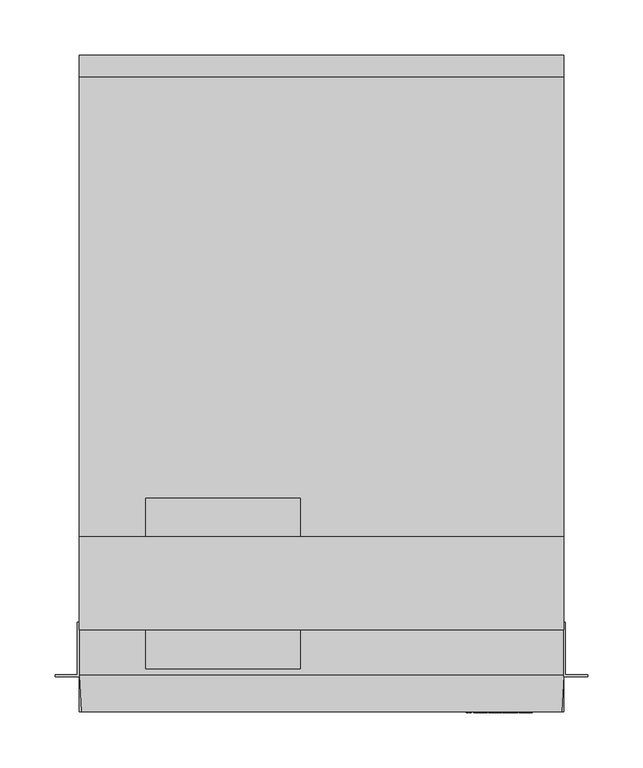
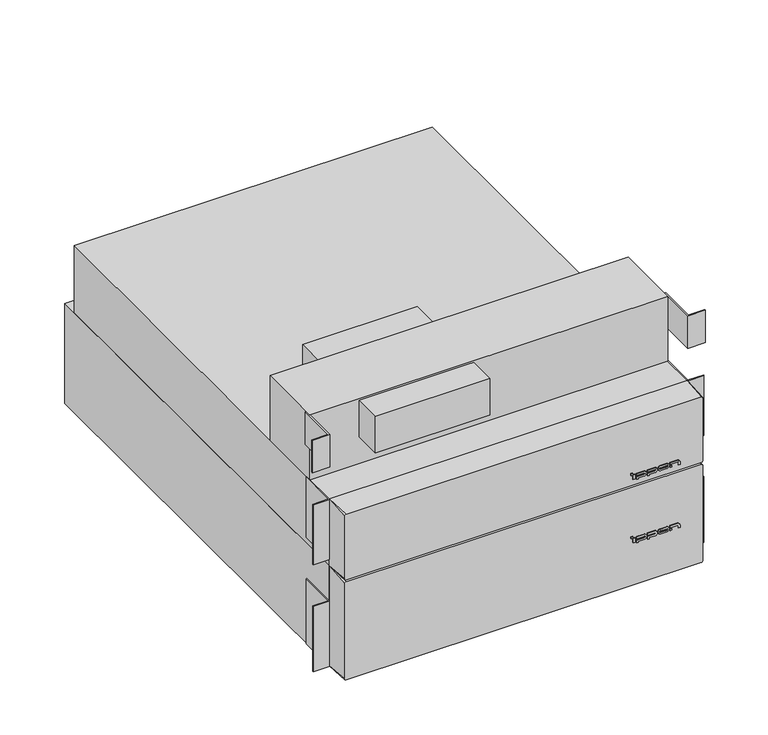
"""IFC4 building model written with IfcOpenShell, lengths in millimetres: proxy geometry, IPPON_ИБП_Innova RT II_60000_10000ВА_Горизонтальный : Innova RT II 10000 ВА."""

from ifc_helpers import new_model, si_unit, point, frame, frame_2d, origin, place, context, project, spatial, polyline, circle_curve, trimmed, segment, composite_curve, outline, extrude, source, transform, mapped, element, save
from ifc_brep_helpers import plane_surface, spline_surface, advanced_brep


def electrical_equipment_400f7965(model_context):
    return source(origin(), model_context, "Body", "SolidModel", [
        extrude(outline(polyline([(-219.0, 157.7370871), (219.0, 157.7370871), (219.0, 73.7370871), (-219.0, 73.7370871), (-219.0, 157.7370871)])), frame((0.0, 0.0, 88.0), z_axis=(0.0, 0.0, 1.0), x_axis=(1.0, 0.0, 0.0)), (0.0, 0.0, 1.0), 84.0),
        extrude(outline(polyline([(-219.0, 31.5), (-240.5, 31.5), (-240.5, 33.0), (-220.5, 33.0), (-220.5, 80.7370871), (-219.0, 80.7370871), (-219.0, 31.5)])), frame((0.0, 0.0, 130.0), z_axis=(0.0, 0.0, 1.0), x_axis=(1.0, 0.0, 0.0)), (0.0, 0.0, 1.0), 42.0),
        extrude(outline(polyline([(219.0, 31.5), (219.0, 80.7370871), (220.5, 80.7370871), (220.5, 33.0), (240.5, 33.0), (240.5, 31.5), (219.0, 31.5)])), frame((0.0, 0.0, 130.0), z_axis=(0.0, 0.0, 1.0), x_axis=(1.0, 0.0, 0.0)), (0.0, 0.0, 1.0), 42.0),
        extrude(outline(polyline([(-159.0, 192.7370871), (-19.0, 192.7370871), (-19.0, 38.7370871), (-159.0, 38.7370871), (-159.0, 192.7370871)])), frame((0.0, 0.0, 123.0), z_axis=(0.0, 0.0, 1.0), x_axis=(1.0, 0.0, 0.0)), (0.0, 0.0, 1.0), 47.0),
        extrude(outline(polyline([(132.8281867, -1.0), (130.8281867, -1.0), (130.8281867, 0.0), (132.8281867, 0.0), (132.8281867, -1.0)])), frame((0.0, 0.0, -65.8), z_axis=(0.0, 0.0, 1.0), x_axis=(1.0, 0.0, 0.0)), (0.0, 0.0, 1.0), 2.3),
        extrude(outline(polyline([(180.6035474, -1.0), (178.6035474, -1.0), (178.6035474, 0.0), (180.6035474, 0.0), (180.6035474, -1.0)])), frame((0.0, 0.0, -71.8), z_axis=(0.0, 0.0, 1.0), x_axis=(1.0, 0.0, 0.0)), (0.0, 0.0, 1.0), 2.2268231),
        extrude(outline(polyline([(135.561435, -1.0), (133.5166676, -1.0), (133.5166676, 0.0), (135.561435, 0.0), (135.561435, -1.0)])), frame((0.0, 0.0, -71.8), z_axis=(0.0, 0.0, 1.0), x_axis=(1.0, 0.0, 0.0)), (0.0, 0.0, 1.0), 6.0),
        extrude(outline(composite_curve([segment(polyline([(-68.06244, 137.7758891), (-68.06244, 147.0076464)]), True, "CONTINUOUS"), segment(trimmed(circle_curve(frame_2d((-68.9189193, 147.0076464)), 0.8564793), [point((-68.06244, 147.0076464))], [point((-69.7753986, 147.0076464))], True, "CARTESIAN"), True, "CONTINUOUS"), segment(polyline([(-69.7753986, 147.0076464), (-69.7753986, 137.7758891), (-73.2659032, 137.7758891), (-73.2659032, 139.7758891), (-71.8, 139.7758891), (-71.8, 146.8513964)]), True, "CONTINUOUS"), segment(trimmed(circle_curve(frame_2d((-68.8, 146.8513964)), 3.0), [point((-71.8, 146.8513964))], [point((-65.8, 146.8513964))], False, "CARTESIAN"), True, "CONTINUOUS"), segment(polyline([(-65.8, 146.8513964), (-65.8, 137.7758891), (-68.06244, 137.7758891)]), True, "CONTINUOUS")], self_intersect=False)), frame((0.0, -1.0, 0.0), z_axis=(0.0, 1.0, 0.0), x_axis=(0.0, 0.0, 1.0)), (0.0, 0.0, 1.0), 1.0),
        extrude(outline(composite_curve([segment(polyline([(-68.06244, 150.9828909), (-68.06244, 160.2146482)]), True, "CONTINUOUS"), segment(trimmed(circle_curve(frame_2d((-68.9189193, 160.2146482)), 0.8564793), [point((-68.06244, 160.2146482))], [point((-69.7753986, 160.2146482))], True, "CARTESIAN"), True, "CONTINUOUS"), segment(polyline([(-69.7753986, 160.2146482), (-69.7753986, 150.9828909), (-73.2659032, 150.9828909), (-73.2659032, 152.9828909), (-71.8, 152.9828909), (-71.8, 160.0583982)]), True, "CONTINUOUS"), segment(trimmed(circle_curve(frame_2d((-68.8, 160.0583982)), 3.0), [point((-71.8, 160.0583982))], [point((-65.8, 160.0583982))], False, "CARTESIAN"), True, "CONTINUOUS"), segment(polyline([(-65.8, 160.0583982), (-65.8, 150.9828909), (-68.06244, 150.9828909)]), True, "CONTINUOUS")], self_intersect=False)), frame((0.0, -1.0, 0.0), z_axis=(0.0, 1.0, 0.0), x_axis=(0.0, 0.0, 1.0)), (0.0, 0.0, 1.0), 1.0),
        extrude(outline(composite_curve([segment(trimmed(circle_curve(frame_2d((-68.8, 174.558657)), 3.0), [point((-71.8, 174.558657))], [point((-65.8, 174.558657))], False, "CARTESIAN"), True, "CONTINUOUS"), segment(polyline([(-65.8, 174.558657), (-65.8, 166.958657)]), True, "CONTINUOUS"), segment(trimmed(circle_curve(frame_2d((-68.8, 166.958657)), 3.0), [point((-65.8, 166.958657))], [point((-71.8, 166.958657))], False, "CARTESIAN"), True, "CONTINUOUS"), segment(polyline([(-71.8, 166.958657), (-71.8, 174.558657)]), True, "CONTINUOUS")], self_intersect=False), holes=[composite_curve([segment(polyline([(-69.7753986, 174.714907), (-69.7753986, 166.802407)]), True, "CONTINUOUS"), segment(trimmed(circle_curve(frame_2d((-68.9189193, 166.802407)), 0.8564793), [point((-69.7753986, 166.802407))], [point((-68.06244, 166.802407))], True, "CARTESIAN"), True, "CONTINUOUS"), segment(polyline([(-68.06244, 166.802407), (-68.06244, 174.714907)]), True, "CONTINUOUS"), segment(trimmed(circle_curve(frame_2d((-68.9189193, 174.714907)), 0.8564793), [point((-68.06244, 174.714907))], [point((-69.7753986, 174.714907))], True, "CARTESIAN"), True, "CONTINUOUS")], self_intersect=False)]), frame((0.0, -1.0, 0.0), z_axis=(0.0, 1.0, 0.0), x_axis=(0.0, 0.0, 1.0)), (0.0, 0.0, 1.0), 1.0),
        extrude(outline(composite_curve([segment(polyline([(-68.06244, 178.6035474), (-68.06244, 187.8353046)]), True, "CONTINUOUS"), segment(trimmed(circle_curve(frame_2d((-68.9189193, 187.8353046)), 0.8564793), [point((-68.06244, 187.8353046))], [point((-68.9189193, 188.6917839))], True, "CARTESIAN"), True, "CONTINUOUS"), segment(polyline([(-68.9189193, 188.6917839), (-71.8, 188.6917839), (-71.8, 190.6317921), (-68.2695835, 190.6317921)]), True, "CONTINUOUS"), segment(trimmed(circle_curve(frame_2d((-68.8, 187.6790546)), 3.0), [point((-68.2695835, 190.6317921))], [point((-65.8, 187.6790546))], False, "CARTESIAN"), True, "CONTINUOUS"), segment(polyline([(-65.8, 187.6790546), (-65.8, 178.6035474), (-68.06244, 178.6035474)]), True, "CONTINUOUS")], self_intersect=False)), frame((0.0, -1.0, 0.0), z_axis=(0.0, 1.0, 0.0), x_axis=(0.0, 0.0, 1.0)), (0.0, 0.0, 1.0), 1.0),
        extrude(outline(polyline([(132.8281867, -1.0), (130.8281867, -1.0), (130.8281867, 0.0), (132.8281867, 0.0), (132.8281867, -1.0)])), frame((0.0, 0.0, 16.0), z_axis=(0.0, 0.0, 1.0), x_axis=(1.0, 0.0, 0.0)), (0.0, 0.0, 1.0), 2.3),
        extrude(outline(polyline([(180.6035474, -1.0), (178.6035474, -1.0), (178.6035474, 0.0), (180.6035474, 0.0), (180.6035474, -1.0)])), frame((0.0, 0.0, 10.0), z_axis=(0.0, 0.0, 1.0), x_axis=(1.0, 0.0, 0.0)), (0.0, 0.0, 1.0), 2.2268231),
        extrude(outline(polyline([(135.561435, -1.0), (133.5166676, -1.0), (133.5166676, 0.0), (135.561435, 0.0), (135.561435, -1.0)])), frame((0.0, 0.0, 10.0), z_axis=(0.0, 0.0, 1.0), x_axis=(1.0, 0.0, 0.0)), (0.0, 0.0, 1.0), 6.0),
        extrude(outline(composite_curve([segment(polyline([(13.73756, 137.7758891), (13.73756, 147.0076464)]), True, "CONTINUOUS"), segment(trimmed(circle_curve(frame_2d((12.8810807, 147.0076464)), 0.8564793), [point((13.73756, 147.0076464))], [point((12.0246014, 147.0076464))], True, "CARTESIAN"), True, "CONTINUOUS"), segment(polyline([(12.0246014, 147.0076464), (12.0246014, 137.7758891), (8.5340968, 137.7758891), (8.5340968, 139.7758891), (10.0, 139.7758891), (10.0, 146.8513964)]), True, "CONTINUOUS"), segment(trimmed(circle_curve(frame_2d((13.0, 146.8513964)), 3.0), [point((10.0, 146.8513964))], [point((16.0, 146.8513964))], False, "CARTESIAN"), True, "CONTINUOUS"), segment(polyline([(16.0, 146.8513964), (16.0, 137.7758891), (13.73756, 137.7758891)]), True, "CONTINUOUS")], self_intersect=False)), frame((0.0, -1.0, 0.0), z_axis=(0.0, 1.0, 0.0), x_axis=(0.0, 0.0, 1.0)), (0.0, 0.0, 1.0), 1.0),
        extrude(outline(composite_curve([segment(polyline([(13.73756, 150.9828909), (13.73756, 160.2146482)]), True, "CONTINUOUS"), segment(trimmed(circle_curve(frame_2d((12.8810807, 160.2146482)), 0.8564793), [point((13.73756, 160.2146482))], [point((12.0246014, 160.2146482))], True, "CARTESIAN"), True, "CONTINUOUS"), segment(polyline([(12.0246014, 160.2146482), (12.0246014, 150.9828909), (8.5340968, 150.9828909), (8.5340968, 152.9828909), (10.0, 152.9828909), (10.0, 160.0583982)]), True, "CONTINUOUS"), segment(trimmed(circle_curve(frame_2d((13.0, 160.0583982)), 3.0), [point((10.0, 160.0583982))], [point((16.0, 160.0583982))], False, "CARTESIAN"), True, "CONTINUOUS"), segment(polyline([(16.0, 160.0583982), (16.0, 150.9828909), (13.73756, 150.9828909)]), True, "CONTINUOUS")], self_intersect=False)), frame((0.0, -1.0, 0.0), z_axis=(0.0, 1.0, 0.0), x_axis=(0.0, 0.0, 1.0)), (0.0, 0.0, 1.0), 1.0),
        extrude(outline(composite_curve([segment(trimmed(circle_curve(frame_2d((13.0, 174.558657)), 3.0), [point((10.0, 174.558657))], [point((16.0, 174.558657))], False, "CARTESIAN"), True, "CONTINUOUS"), segment(polyline([(16.0, 174.558657), (16.0, 166.958657)]), True, "CONTINUOUS"), segment(trimmed(circle_curve(frame_2d((13.0, 166.958657)), 3.0), [point((16.0, 166.958657))], [point((10.0, 166.958657))], False, "CARTESIAN"), True, "CONTINUOUS"), segment(polyline([(10.0, 166.958657), (10.0, 174.558657)]), True, "CONTINUOUS")], self_intersect=False), holes=[composite_curve([segment(polyline([(12.0246014, 174.714907), (12.0246014, 166.802407)]), True, "CONTINUOUS"), segment(trimmed(circle_curve(frame_2d((12.8810807, 166.802407)), 0.8564793), [point((12.0246014, 166.802407))], [point((13.73756, 166.802407))], True, "CARTESIAN"), True, "CONTINUOUS"), segment(polyline([(13.73756, 166.802407), (13.73756, 174.714907)]), True, "CONTINUOUS"), segment(trimmed(circle_curve(frame_2d((12.8810807, 174.714907)), 0.8564793), [point((13.73756, 174.714907))], [point((12.0246014, 174.714907))], True, "CARTESIAN"), True, "CONTINUOUS")], self_intersect=False)]), frame((0.0, -1.0, 0.0), z_axis=(0.0, 1.0, 0.0), x_axis=(0.0, 0.0, 1.0)), (0.0, 0.0, 1.0), 1.0),
        extrude(outline(composite_curve([segment(polyline([(13.73756, 178.6035474), (13.73756, 187.8353046)]), True, "CONTINUOUS"), segment(trimmed(circle_curve(frame_2d((12.8810807, 187.8353046)), 0.8564793), [point((13.73756, 187.8353046))], [point((12.8810807, 188.6917839))], True, "CARTESIAN"), True, "CONTINUOUS"), segment(polyline([(12.8810807, 188.6917839), (10.0, 188.6917839), (10.0, 190.6317921), (13.5304165, 190.6317921)]), True, "CONTINUOUS"), segment(trimmed(circle_curve(frame_2d((13.0, 187.6790546)), 3.0), [point((13.5304165, 190.6317921))], [point((16.0, 187.6790546))], False, "CARTESIAN"), True, "CONTINUOUS"), segment(polyline([(16.0, 187.6790546), (16.0, 178.6035474), (13.73756, 178.6035474)]), True, "CONTINUOUS")], self_intersect=False)), frame((0.0, -1.0, 0.0), z_axis=(0.0, 1.0, 0.0), x_axis=(0.0, 0.0, 1.0)), (0.0, 0.0, 1.0), 1.0),
        extrude(outline(polyline([(-219.0, 32.0), (-239.0, 32.0), (-239.0, 33.0), (-220.0, 33.0), (-220.0, 80.0), (-219.0, 80.0), (-219.0, 32.0)])), frame((0.0, 0.0, -128.0), z_axis=(0.0, 0.0, 1.0), x_axis=(1.0, 0.0, 0.0)), (0.0, 0.0, 1.0), 84.5),
        extrude(outline(polyline([(239.0, 32.0), (219.0, 32.0), (219.0, 80.0), (220.0, 80.0), (220.0, 33.0), (239.0, 33.0), (239.0, 32.0)])), frame((0.0, 0.0, -128.0), z_axis=(0.0, 0.0, 1.0), x_axis=(1.0, 0.0, 0.0)), (0.0, 0.0, 1.0), 84.5),
        extrude(outline(polyline([(219.0, 33.0), (-219.0, 33.0), (-219.0, 593.0), (219.0, 593.0), (219.0, 33.0)])), frame((0.0, 0.0, -128.0), z_axis=(0.0, 0.0, 1.0), x_axis=(1.0, 0.0, 0.0)), (0.0, 0.0, 1.0), 129.0),
        advanced_brep(
        [(217.0, 0.0, -127.0), (219.0, 0.0, -125.0), (219.0, 0.0, -2.0), (217.0, 0.0, 0.0), (-217.0, 0.0, 0.0), (-219.0, 0.0, -2.0), (-219.0, 0.0, -125.0), (-217.0, 0.0, -127.0), (219.0, 33.0, -128.0), (-219.0, 33.0, -128.0), (-219.0, 33.0, 1.0), (219.0, 33.0, 1.0)],
        [
            (0, 1, circle_curve(frame((217.0, 0.0, -125.0), z_axis=(0.0, -1.0, 0.0), x_axis=(-1.0, 0.0, 0.0)), 2.0)),
            (1, 2),
            (2, 3, circle_curve(frame((217.0, 0.0, -2.0), z_axis=(0.0, -1.0, 0.0), x_axis=(-1.0, 0.0, 0.0)), 2.0)),
            (3, 4),
            (4, 5, circle_curve(frame((-217.0, 0.0, -2.0), z_axis=(0.0, -1.0, 0.0), x_axis=(-1.0, 0.0, 0.0)), 2.0)),
            (5, 6),
            (6, 7, circle_curve(frame((-217.0, 0.0, -125.0), z_axis=(0.0, -1.0, 0.0), x_axis=(-1.0, 0.0, 0.0)), 2.0)),
            (7, 0),
            (8, 9),
            (9, 10),
            (10, 11),
            (11, 8),
            (0, 8),
            (8, 1),
            (7, 9),
            (6, 9),
            (5, 10),
            (4, 10),
            (3, 11),
            (2, 11),
        ],
        [
            plane_surface(frame((0.0, 0.0, -63.5), z_axis=(0.0, -1.0, 0.0), x_axis=(1.0, 0.0, 0.0))),
            plane_surface(frame((0.0, 33.0, -63.5), z_axis=(0.0, 1.0, 0.0), x_axis=(1.0, 0.0, 0.0))),
            spline_surface(2, 1, [[(219.0, 33.0, -128.0), (217.0, 0.0, -127.0)], [(219.0, 33.0, -128.0), (219.0, 0.0, -127.0)], [(219.0, 33.0, -128.0), (219.0, 0.0, -125.0)]], [3, 3], [2, 2], [0.0, 1.0], [0.0, 1.0], weights=[[1.0, 1.0], [0.7071067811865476, 0.7071067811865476], [1.0, 1.0]]),
            plane_surface(frame((0.0, 33.0, -128.0), z_axis=(0.0, -0.030289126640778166, -0.9995411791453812), x_axis=(1.0, 0.0, 0.0))),
            spline_surface(2, 1, [[(-219.0, 33.0, -128.0), (-219.0, 0.0, -125.0)], [(-219.0, 33.0, -128.0), (-219.0, 0.0, -127.0)], [(-219.0, 33.0, -128.0), (-217.0, 0.0, -127.0)]], [3, 3], [2, 2], [0.0, 1.0], [0.0, 1.0], weights=[[1.0, 1.0], [0.7071067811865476, 0.7071067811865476], [1.0, 1.0]]),
            plane_surface(frame((-219.0, 33.0, -63.5), z_axis=(-1.0, 0.0, 0.0), x_axis=(0.0, 0.0, -1.0))),
            spline_surface(2, 1, [[(-219.0, 33.0, 1.0), (-217.0, 0.0, 0.0)], [(-219.0, 33.0, 1.0), (-219.0, 0.0, 0.0)], [(-219.0, 33.0, 1.0), (-219.0, 0.0, -2.0)]], [3, 3], [2, 2], [0.0, 1.0], [0.0, 1.0], weights=[[1.0, 1.0], [0.7071067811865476, 0.7071067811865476], [1.0, 1.0]]),
            plane_surface(frame((0.0, 33.0, 1.0), z_axis=(0.0, -0.03028912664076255, 0.9995411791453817), x_axis=(-1.0, 0.0, 0.0))),
            spline_surface(2, 1, [[(219.0, 33.0, 1.0), (219.0, 0.0, -2.0)], [(219.0, 33.0, 1.0), (219.0, 0.0, 0.0)], [(219.0, 33.0, 1.0), (217.0, 0.0, 0.0)]], [3, 3], [2, 2], [0.0, 1.0], [0.0, 1.0], weights=[[1.0, 1.0], [0.7071067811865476, 0.7071067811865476], [1.0, 1.0]]),
            plane_surface(frame((219.0, 33.0, -63.5), z_axis=(1.0, 0.0, 0.0), x_axis=(0.0, 0.0, 1.0))),
        ],
        [
            (0, [[1, 2, 3, 4, 5, 6, 7, 8]]),
            (1, [[9, 10, 11, 12]]),
            (2, [[-1, 13, 14]]),
            (3, [[-9, -13, -8, 15]]),
            (4, [[-7, 16, -15]]),
            (5, [[-10, -16, -6, 17]]),
            (6, [[-5, 18, -17]]),
            (7, [[-11, -18, -4, 19]]),
            (8, [[-3, 20, -19]]),
            (9, [[-12, -20, -2, -14]]),
        ],
    ),
        extrude(outline(polyline([(219.0, 32.0), (219.0, 80.0), (220.0, 80.0), (220.0, 33.0), (239.0, 33.0), (239.0, 32.0), (219.0, 32.0)])), frame((0.0, 0.0, 10.0), z_axis=(0.0, 0.0, 1.0), x_axis=(1.0, 0.0, 0.0)), (0.0, 0.0, 1.0), 78.0),
        extrude(outline(polyline([(-219.0, 32.0), (-239.0, 32.0), (-239.0, 33.0), (-220.0, 33.0), (-220.0, 80.0), (-219.0, 80.0), (-219.0, 32.0)])), frame((0.0, 0.0, 10.0), z_axis=(0.0, 0.0, 1.0), x_axis=(1.0, 0.0, 0.0)), (0.0, 0.0, 1.0), 78.0),
        advanced_brep(
        [(217.0, 0.0, 2.5), (219.0, 0.0, 4.5), (219.0, 0.0, 85.0), (217.0, 0.0, 87.0), (-217.0, 0.0, 87.0), (-219.0, 0.0, 85.0), (-219.0, 0.0, 4.5), (-217.0, 0.0, 2.5), (219.0, 33.0, 1.5), (-219.0, 33.0, 1.5), (-219.0, 33.0, 88.0), (219.0, 33.0, 88.0)],
        [
            (0, 1, circle_curve(frame((217.0, 0.0, 4.5), z_axis=(0.0, -1.0, 0.0), x_axis=(-1.0, 0.0, 0.0)), 2.0)),
            (1, 2),
            (2, 3, circle_curve(frame((217.0, 0.0, 85.0), z_axis=(0.0, -1.0, 0.0), x_axis=(-1.0, 0.0, 0.0)), 2.0)),
            (3, 4),
            (4, 5, circle_curve(frame((-217.0, 0.0, 85.0), z_axis=(0.0, -1.0, 0.0), x_axis=(-1.0, 0.0, 0.0)), 2.0)),
            (5, 6),
            (6, 7, circle_curve(frame((-217.0, 0.0, 4.5), z_axis=(0.0, -1.0, 0.0), x_axis=(-1.0, 0.0, 0.0)), 2.0)),
            (7, 0),
            (8, 9),
            (9, 10),
            (10, 11),
            (11, 8),
            (0, 8),
            (8, 1),
            (7, 9),
            (6, 9),
            (5, 10),
            (4, 10),
            (3, 11),
            (2, 11),
        ],
        [
            plane_surface(frame((0.0, 0.0, 44.75), z_axis=(0.0, -1.0, 0.0), x_axis=(1.0, 0.0, 0.0))),
            plane_surface(frame((0.0, 33.0, 44.75), z_axis=(0.0, 1.0, 0.0), x_axis=(1.0, 0.0, 0.0))),
            spline_surface(2, 1, [[(219.0, 33.0, 1.5), (217.0, 0.0, 2.5)], [(219.0, 33.0, 1.5), (219.0, 0.0, 2.5)], [(219.0, 33.0, 1.5), (219.0, 0.0, 4.5)]], [3, 3], [2, 2], [0.0, 1.0], [0.0, 1.0], weights=[[1.0, 1.0], [0.7071067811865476, 0.7071067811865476], [1.0, 1.0]]),
            plane_surface(frame((0.0, 33.0, 1.5), z_axis=(0.0, -0.030289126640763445, -0.9995411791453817), x_axis=(1.0, 0.0, 0.0))),
            spline_surface(2, 1, [[(-219.0, 33.0, 1.5), (-219.0, 0.0, 4.5)], [(-219.0, 33.0, 1.5), (-219.0, 0.0, 2.5)], [(-219.0, 33.0, 1.5), (-217.0, 0.0, 2.5)]], [3, 3], [2, 2], [0.0, 1.0], [0.0, 1.0], weights=[[1.0, 1.0], [0.7071067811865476, 0.7071067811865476], [1.0, 1.0]]),
            plane_surface(frame((-219.0, 33.0, 44.75), z_axis=(-1.0, 0.0, 0.0), x_axis=(0.0, 0.0, -1.0))),
            spline_surface(2, 1, [[(-219.0, 33.0, 88.0), (-217.0, 0.0, 87.0)], [(-219.0, 33.0, 88.0), (-219.0, 0.0, 87.0)], [(-219.0, 33.0, 88.0), (-219.0, 0.0, 85.0)]], [3, 3], [2, 2], [0.0, 1.0], [0.0, 1.0], weights=[[1.0, 1.0], [0.7071067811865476, 0.7071067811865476], [1.0, 1.0]]),
            plane_surface(frame((0.0, 33.0, 88.0), z_axis=(0.0, -0.030289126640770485, 0.9995411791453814), x_axis=(-1.0, 0.0, 0.0))),
            spline_surface(2, 1, [[(219.0, 33.0, 88.0), (219.0, 0.0, 85.0)], [(219.0, 33.0, 88.0), (219.0, 0.0, 87.0)], [(219.0, 33.0, 88.0), (217.0, 0.0, 87.0)]], [3, 3], [2, 2], [0.0, 1.0], [0.0, 1.0], weights=[[1.0, 1.0], [0.7071067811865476, 0.7071067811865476], [1.0, 1.0]]),
            plane_surface(frame((219.0, 33.0, 44.75), z_axis=(1.0, 0.0, 0.0), x_axis=(0.0, 0.0, 1.0))),
        ],
        [
            (0, [[1, 2, 3, 4, 5, 6, 7, 8]]),
            (1, [[9, 10, 11, 12]]),
            (2, [[-1, 13, 14]]),
            (3, [[-9, -13, -8, 15]]),
            (4, [[-7, 16, -15]]),
            (5, [[-10, -16, -6, 17]]),
            (6, [[-5, 18, -17]]),
            (7, [[-11, -18, -4, 19]]),
            (8, [[-3, 20, -19]]),
            (9, [[-12, -20, -2, -14]]),
        ],
    ),
        extrude(outline(polyline([(219.0, 33.0), (-219.0, 33.0), (-219.0, 573.0), (219.0, 573.0), (219.0, 33.0)])), frame((0.0, 0.0, 1.5), z_axis=(0.0, 0.0, 1.0), x_axis=(1.0, 0.0, 0.0)), (0.0, 0.0, 1.0), 86.5),
    ])


if __name__ == "__main__":
    model = new_model("IFC4")
    model_context = context("Model", 3, world=origin())
    ifc_project = project(units=[si_unit("LENGTHUNIT", "METRE", prefix="MILLI")], contexts=[model_context])
    site = spatial("IfcSite", under=ifc_project)
    building = spatial("IfcBuilding", under=site)
    placement = place(None, origin())
    electrical_equipment_shape = electrical_equipment_400f7965(model_context)
    element("IfcBuildingElementProxy", 1, Name="IPPON_ИБП_Innova RT II_60000_10000ВА_Горизонтальный : Innova RT II 10000 ВА", ObjectType="IPPON_ИБП_Innova RT II_60000_10000ВА_Горизонтальный : Innova RT II 10000 ВА", at=placement, inside=building, context=model_context, shape_type="MappedRepresentation", body=[
        mapped(electrical_equipment_shape, transform((0.0, 0.0, 0.0), x_axis=(1.0, 0.0, 0.0), y_axis=(0.0, 1.0, 0.0), z_axis=(0.0, 0.0, 1.0))),
    ])
    save(model, "model.ifc")
